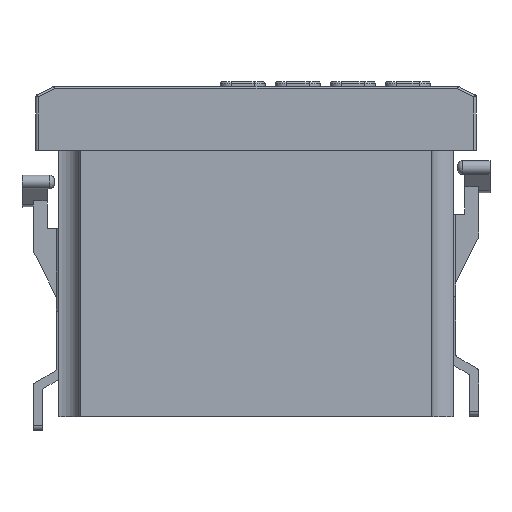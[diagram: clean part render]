
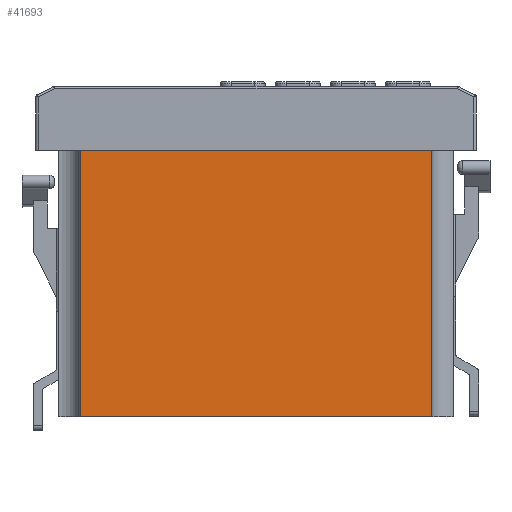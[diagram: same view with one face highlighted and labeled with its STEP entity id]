
A CAD part, front view. The second image highlights one B-rep face of the part: STEP entity #41693.
In plain terms, the highlighted planar face has unit normal (0, -1, 0).
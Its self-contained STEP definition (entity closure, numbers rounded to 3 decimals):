
#309 = LINE ( 'NONE', #44747, #11105 ) ;
#396 = CARTESIAN_POINT ( 'NONE',  ( 43., -43., -70. ) ) ;
#849 = VERTEX_POINT ( 'NONE', #28692 ) ;
#1140 = VERTEX_POINT ( 'NONE', #38869 ) ;
#1616 = CARTESIAN_POINT ( 'NONE',  ( -38.25, -43., -5. ) ) ;
#1705 = EDGE_CURVE ( 'NONE', #37673, #849, #30821, .T. ) ;
#2132 = VECTOR ( 'NONE', #22939, 1000. ) ;
#3405 = ORIENTED_EDGE ( 'NONE', *, *, #1705, .F. ) ;
#3528 = ORIENTED_EDGE ( 'NONE', *, *, #7254, .T. ) ;
#3903 = ORIENTED_EDGE ( 'NONE', *, *, #7799, .T. ) ;
#4710 = VERTEX_POINT ( 'NONE', #43651 ) ;
#5136 = EDGE_CURVE ( 'NONE', #4710, #37673, #34069, .T. ) ;
#5712 = LINE ( 'NONE', #42911, #10764 ) ;
#7254 = EDGE_CURVE ( 'NONE', #20398, #33306, #16124, .T. ) ;
#7497 = ORIENTED_EDGE ( 'NONE', *, *, #38319, .F. ) ;
#7789 = VECTOR ( 'NONE', #13664, 1000. ) ;
#7799 = EDGE_CURVE ( 'NONE', #17623, #20398, #36222, .T. ) ;
#7934 = ORIENTED_EDGE ( 'NONE', *, *, #28521, .T. ) ;
#8690 = VECTOR ( 'NONE', #26042, 1000. ) ;
#8866 = DIRECTION ( 'NONE',  ( 0., 0., -1. ) ) ;
#8871 = VERTEX_POINT ( 'NONE', #41697 ) ;
#9118 = DIRECTION ( 'NONE',  ( -1., 0., 0. ) ) ;
#9208 = CARTESIAN_POINT ( 'NONE',  ( 38.25, -43., -70. ) ) ;
#9874 = ORIENTED_EDGE ( 'NONE', *, *, #29320, .T. ) ;
#10417 = CARTESIAN_POINT ( 'NONE',  ( -38.25, -43., 8.435 ) ) ;
#10550 = VERTEX_POINT ( 'NONE', #11745 ) ;
#10759 = DIRECTION ( 'NONE',  ( -1., 0., 0. ) ) ;
#10764 = VECTOR ( 'NONE', #9118, 1000. ) ;
#11105 = VECTOR ( 'NONE', #42014, 1000. ) ;
#11617 = FACE_OUTER_BOUND ( 'NONE', #40947, .T. ) ;
#11745 = CARTESIAN_POINT ( 'NONE',  ( 26., -43., -12. ) ) ;
#11949 = CARTESIAN_POINT ( 'NONE',  ( 38.25, -43., 8.435 ) ) ;
#12266 = CARTESIAN_POINT ( 'NONE',  ( -24., -43., -12. ) ) ;
#12722 = LINE ( 'NONE', #12266, #27211 ) ;
#12733 = CARTESIAN_POINT ( 'NONE',  ( 43., -43., -5. ) ) ;
#12953 = DIRECTION ( 'NONE',  ( -1., 0., 0. ) ) ;
#13442 = CARTESIAN_POINT ( 'NONE',  ( -26., -43., -12. ) ) ;
#13664 = DIRECTION ( 'NONE',  ( 0., 0., -1. ) ) ;
#15030 = DIRECTION ( 'NONE',  ( 0., 0., 1. ) ) ;
#15477 = PLANE ( 'NONE',  #25188 ) ;
#15817 = VERTEX_POINT ( 'NONE', #1616 ) ;
#16124 = LINE ( 'NONE', #30400, #33962 ) ;
#16362 = ORIENTED_EDGE ( 'NONE', *, *, #22589, .T. ) ;
#16768 = DIRECTION ( 'NONE',  ( 1., 0., 0. ) ) ;
#17623 = VERTEX_POINT ( 'NONE', #9208 ) ;
#19045 = VECTOR ( 'NONE', #41040, 1000. ) ;
#19077 = CARTESIAN_POINT ( 'NONE',  ( -38.25, -43., -70. ) ) ;
#19498 = EDGE_CURVE ( 'NONE', #1140, #8871, #26965, .T. ) ;
#19505 = VECTOR ( 'NONE', #16768, 1000. ) ;
#19832 = CARTESIAN_POINT ( 'NONE',  ( 38.25, -43., -5. ) ) ;
#20398 = VERTEX_POINT ( 'NONE', #19832 ) ;
#20598 = ORIENTED_EDGE ( 'NONE', *, *, #27915, .T. ) ;
#21909 = LINE ( 'NONE', #396, #35230 ) ;
#22280 = DIRECTION ( 'NONE',  ( 0., 1., 0. ) ) ;
#22368 = VECTOR ( 'NONE', #10759, 1000. ) ;
#22589 = EDGE_CURVE ( 'NONE', #42731, #849, #12722, .T. ) ;
#22939 = DIRECTION ( 'NONE',  ( -1., 0., 0. ) ) ;
#25188 = AXIS2_PLACEMENT_3D ( 'NONE', #28848, #22280, #15030 ) ;
#25340 = DIRECTION ( 'NONE',  ( 0., 0., 1. ) ) ;
#26042 = DIRECTION ( 'NONE',  ( 0., 0., -1. ) ) ;
#26330 = LINE ( 'NONE', #12733, #2132 ) ;
#26410 = EDGE_CURVE ( 'NONE', #10550, #8871, #5712, .T. ) ;
#26965 = LINE ( 'NONE', #30374, #19045 ) ;
#27211 = VECTOR ( 'NONE', #8866, 1000. ) ;
#27313 = CARTESIAN_POINT ( 'NONE',  ( 43., -43., -5. ) ) ;
#27636 = LINE ( 'NONE', #10417, #8690 ) ;
#27915 = EDGE_CURVE ( 'NONE', #15817, #35288, #27636, .T. ) ;
#28521 = EDGE_CURVE ( 'NONE', #4710, #15817, #41601, .T. ) ;
#28692 = CARTESIAN_POINT ( 'NONE',  ( -24., -43., -12. ) ) ;
#28848 = CARTESIAN_POINT ( 'NONE',  ( 43., -43., -70. ) ) ;
#29320 = EDGE_CURVE ( 'NONE', #1140, #42731, #26330, .T. ) ;
#29486 = ORIENTED_EDGE ( 'NONE', *, *, #5136, .F. ) ;
#30374 = CARTESIAN_POINT ( 'NONE',  ( 24., -43., -12. ) ) ;
#30400 = CARTESIAN_POINT ( 'NONE',  ( 43., -43., -5. ) ) ;
#30821 = LINE ( 'NONE', #41256, #19505 ) ;
#32435 = CARTESIAN_POINT ( 'NONE',  ( -26., -43., -12. ) ) ;
#33306 = VERTEX_POINT ( 'NONE', #36435 ) ;
#33392 = CARTESIAN_POINT ( 'NONE',  ( -24., -43., -5. ) ) ;
#33962 = VECTOR ( 'NONE', #12953, 1000. ) ;
#34047 = EDGE_CURVE ( 'NONE', #33306, #10550, #309, .T. ) ;
#34069 = LINE ( 'NONE', #13442, #7789 ) ;
#35230 = VECTOR ( 'NONE', #35513, 1000. ) ;
#35288 = VERTEX_POINT ( 'NONE', #19077 ) ;
#35513 = DIRECTION ( 'NONE',  ( -1., 0., 0. ) ) ;
#36052 = ORIENTED_EDGE ( 'NONE', *, *, #19498, .F. ) ;
#36222 = LINE ( 'NONE', #11949, #43417 ) ;
#36435 = CARTESIAN_POINT ( 'NONE',  ( 26., -43., -5. ) ) ;
#37673 = VERTEX_POINT ( 'NONE', #32435 ) ;
#38319 = EDGE_CURVE ( 'NONE', #17623, #35288, #21909, .T. ) ;
#38838 = ORIENTED_EDGE ( 'NONE', *, *, #26410, .T. ) ;
#38869 = CARTESIAN_POINT ( 'NONE',  ( 24., -43., -5. ) ) ;
#40169 = ORIENTED_EDGE ( 'NONE', *, *, #34047, .T. ) ;
#40947 = EDGE_LOOP ( 'NONE', ( #29486, #7934, #20598, #7497, #3903, #3528, #40169, #38838, #36052, #9874, #16362, #3405 ) ) ;
#41040 = DIRECTION ( 'NONE',  ( 0., 0., -1. ) ) ;
#41256 = CARTESIAN_POINT ( 'NONE',  ( -26., -43., -12. ) ) ;
#41601 = LINE ( 'NONE', #27313, #22368 ) ;
#41693 = ADVANCED_FACE ( 'NONE', ( #11617 ), #15477, .F. ) ;
#41697 = CARTESIAN_POINT ( 'NONE',  ( 24., -43., -12. ) ) ;
#42014 = DIRECTION ( 'NONE',  ( 0., 0., -1. ) ) ;
#42731 = VERTEX_POINT ( 'NONE', #33392 ) ;
#42911 = CARTESIAN_POINT ( 'NONE',  ( 26., -43., -12. ) ) ;
#43417 = VECTOR ( 'NONE', #25340, 1000. ) ;
#43651 = CARTESIAN_POINT ( 'NONE',  ( -26., -43., -5. ) ) ;
#44747 = CARTESIAN_POINT ( 'NONE',  ( 26., -43., -12. ) ) ;
